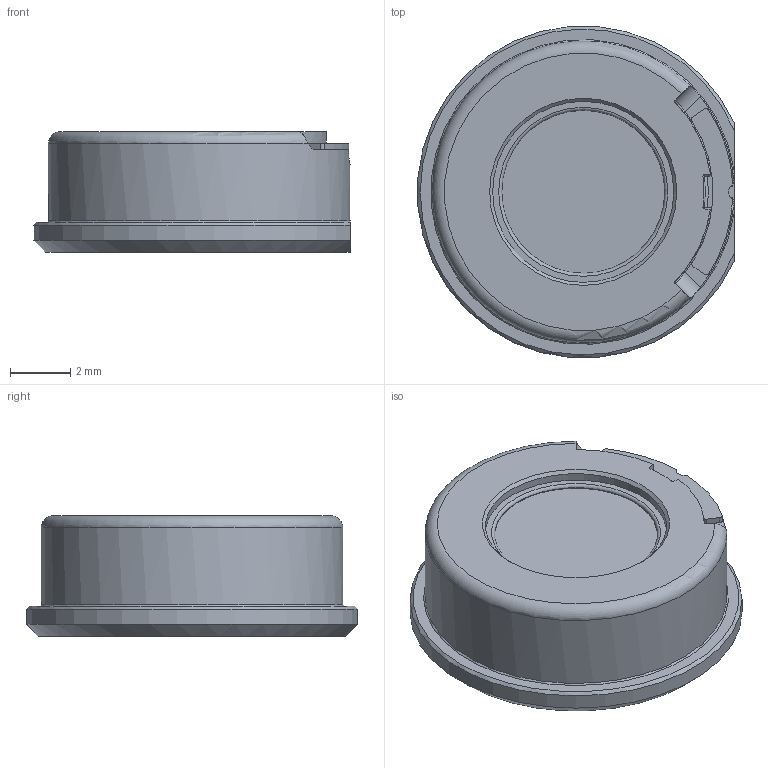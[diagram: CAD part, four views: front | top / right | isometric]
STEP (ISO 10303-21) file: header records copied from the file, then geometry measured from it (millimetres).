
FILE_DESCRIPTION (( 'STEP AP214' ), '1' );
FILE_NAME ('136-453-XX_Rev-0-01.STEP', '2017-10-04T11:51:09', ( '' ), ( '' ), 'SwSTEP 2.0', 'SolidWorks 2017', '' );
FILE_SCHEMA (( 'AUTOMOTIVE_DESIGN' ));
Length unit declared in the file: millimetre
Products named in the file (13): Part1^136-453-XX; 135-979-01_ConnectingElement; 136-843-00_04_single core; Defeature^136-453-XX; 134-674-03_134-674-03; 136-685-00_02; 136-841-00_01; 132-672-00-0-03; 136-857-00_01-Produkt (Name); 136-420-XX; 136-844-00_01; 135-885-00_00; 136-453-XX_Rev-0-01
Assembly tree (12 placements, depth 4):
  136-453-XX_Rev-0-01
    136-420-XX
    134-674-03_134-674-03
      135-885-00_00
        136-685-00_02
      132-672-00-0-03
    Defeature^136-453-XX
    136-857-00_01-Produkt (Name)
      136-843-00_04_single core
      136-841-00_01
      136-844-00_01
      135-979-01_ConnectingElement
    Part1^136-453-XX
Bounding box: 10.48 x 10.96 x 4 mm (x, y, z)
Volume: 284.2 mm3; surface area: 869.2 mm2
Topology: 9 solids, 9 shells, 121 faces, 282 edges, 182 vertices
Faces by surface type: plane 50, cylinder 46, torus 19, cone 4, bspline 2
Full cylindrical faces by diameter (mm): 3 x1, 3.1 x1, 3.5 x1, 3.7 x1, 5 x1, 5.1 x1, 5.4 x3, 5.6 x1, 6 x2, 8.1 x1, 9.3 x2, 10 x1
Entity records: 4041 total; most frequent: CARTESIAN_POINT 868, DIRECTION 615, ORIENTED_EDGE 500, AXIS2_PLACEMENT_3D 260, EDGE_CURVE 250, VERTEX_POINT 177, EDGE_LOOP 161, FACE_OUTER_BOUND 146
